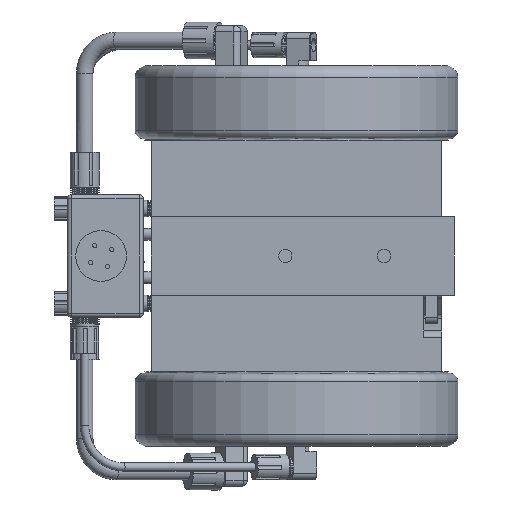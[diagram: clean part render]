
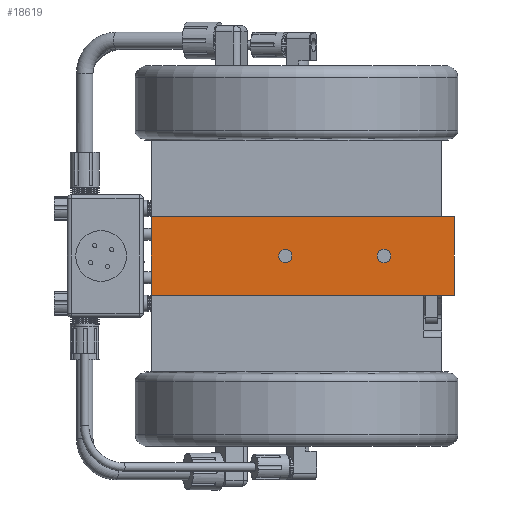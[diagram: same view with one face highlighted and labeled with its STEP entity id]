
A CAD part, front view. The second image highlights one B-rep face of the part: STEP entity #18619.
In plain terms, the highlighted planar face has unit normal (0, -1, 0).
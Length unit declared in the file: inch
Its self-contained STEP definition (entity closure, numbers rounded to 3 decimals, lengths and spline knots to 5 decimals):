
#320 = LINE ( 'NONE', #3731, #325 ) ;
#325 = VECTOR ( 'NONE', #3735, 39.37008 ) ;
#493 = LINE ( 'NONE', #4204, #499 ) ;
#499 = VECTOR ( 'NONE', #4193, 39.37008 ) ;
#895 = CIRCLE ( 'NONE', #38214, 0.203 ) ;
#1040 = LINE ( 'NONE', #28165, #1045 ) ;
#1045 = VECTOR ( 'NONE', #28167, 39.37008 ) ;
#3731 = CARTESIAN_POINT ( 'NONE',  ( -4.41, -5.16, -1.19 ) ) ;
#3735 = DIRECTION ( 'NONE',  ( 1., 0., 0. ) ) ;
#4193 = DIRECTION ( 'NONE',  ( 0., 0., -1. ) ) ;
#4204 = CARTESIAN_POINT ( 'NONE',  ( -4.41, -5.16, 1.19 ) ) ;
#8833 = EDGE_LOOP ( 'NONE', ( #33114 ) ) ;
#9013 = EDGE_LOOP ( 'NONE', ( #33045, #33132, #32571, #33049 ) ) ;
#13477 = VERTEX_POINT ( 'NONE', #45073 ) ;
#13683 = VERTEX_POINT ( 'NONE', #45258 ) ;
#13753 = VERTEX_POINT ( 'NONE', #44713 ) ;
#13987 = ORIENTED_EDGE ( 'NONE', *, *, #37216, .T. ) ;
#14232 = VERTEX_POINT ( 'NONE', #16674 ) ;
#14463 = VERTEX_POINT ( 'NONE', #23056 ) ;
#14490 = VERTEX_POINT ( 'NONE', #23071 ) ;
#15544 = EDGE_LOOP ( 'NONE', ( #13987 ) ) ;
#16674 = CARTESIAN_POINT ( 'NONE',  ( 4.785, -5.16, -1.19 ) ) ;
#18619 = ADVANCED_FACE ( 'NONE', ( #38675, #38692, #38688 ), #26774, .F. ) ;
#21487 = CIRCLE ( 'NONE', #38293, 0.203 ) ;
#21489 = LINE ( 'NONE', #28332, #21495 ) ;
#21495 = VECTOR ( 'NONE', #28333, 39.37008 ) ;
#23056 = CARTESIAN_POINT ( 'NONE',  ( -0.543, -5.16, 0. ) ) ;
#23071 = CARTESIAN_POINT ( 'NONE',  ( 2.457, -5.16, 0. ) ) ;
#24512 = AXIS2_PLACEMENT_3D ( 'NONE', #26772, #26770, #26775 ) ;
#26770 = DIRECTION ( 'NONE',  ( 0., 1., 0. ) ) ;
#26772 = CARTESIAN_POINT ( 'NONE',  ( -4.41, -5.16, 1.19 ) ) ;
#26774 = PLANE ( 'NONE',  #24512 ) ;
#26775 = DIRECTION ( 'NONE',  ( -1., 0., 0. ) ) ;
#27836 = CARTESIAN_POINT ( 'NONE',  ( -0.34, -5.16, 0. ) ) ;
#27837 = DIRECTION ( 'NONE',  ( 0., 1., 0. ) ) ;
#27838 = DIRECTION ( 'NONE',  ( -1., 0., 0. ) ) ;
#28165 = CARTESIAN_POINT ( 'NONE',  ( 4.785, -5.16, 1.19 ) ) ;
#28167 = DIRECTION ( 'NONE',  ( 0., 0., -1. ) ) ;
#28310 = CARTESIAN_POINT ( 'NONE',  ( 2.66, -5.16, 0. ) ) ;
#28311 = DIRECTION ( 'NONE',  ( 0., 1., 0. ) ) ;
#28312 = DIRECTION ( 'NONE',  ( -1., 0., 0. ) ) ;
#28332 = CARTESIAN_POINT ( 'NONE',  ( -4.41, -5.16, 1.19 ) ) ;
#28333 = DIRECTION ( 'NONE',  ( 1., 0., 0. ) ) ;
#30963 = EDGE_CURVE ( 'NONE', #13683, #14232, #320, .T. ) ;
#31772 = EDGE_CURVE ( 'NONE', #13753, #13683, #493, .T. ) ;
#32571 = ORIENTED_EDGE ( 'NONE', *, *, #37361, .F. ) ;
#33045 = ORIENTED_EDGE ( 'NONE', *, *, #30963, .T. ) ;
#33049 = ORIENTED_EDGE ( 'NONE', *, *, #31772, .T. ) ;
#33114 = ORIENTED_EDGE ( 'NONE', *, *, #37357, .T. ) ;
#33132 = ORIENTED_EDGE ( 'NONE', *, *, #37312, .F. ) ;
#37216 = EDGE_CURVE ( 'NONE', #14463, #14463, #895, .T. ) ;
#37312 = EDGE_CURVE ( 'NONE', #13477, #14232, #1040, .T. ) ;
#37357 = EDGE_CURVE ( 'NONE', #14490, #14490, #21487, .T. ) ;
#37361 = EDGE_CURVE ( 'NONE', #13753, #13477, #21489, .T. ) ;
#38214 = AXIS2_PLACEMENT_3D ( 'NONE', #27836, #27837, #27838 ) ;
#38293 = AXIS2_PLACEMENT_3D ( 'NONE', #28310, #28311, #28312 ) ;
#38675 = FACE_BOUND ( 'NONE', #8833, .T. ) ;
#38688 = FACE_OUTER_BOUND ( 'NONE', #9013, .T. ) ;
#38692 = FACE_BOUND ( 'NONE', #15544, .T. ) ;
#44713 = CARTESIAN_POINT ( 'NONE',  ( -4.41, -5.16, 1.19 ) ) ;
#45073 = CARTESIAN_POINT ( 'NONE',  ( 4.785, -5.16, 1.19 ) ) ;
#45258 = CARTESIAN_POINT ( 'NONE',  ( -4.41, -5.16, -1.19 ) ) ;
